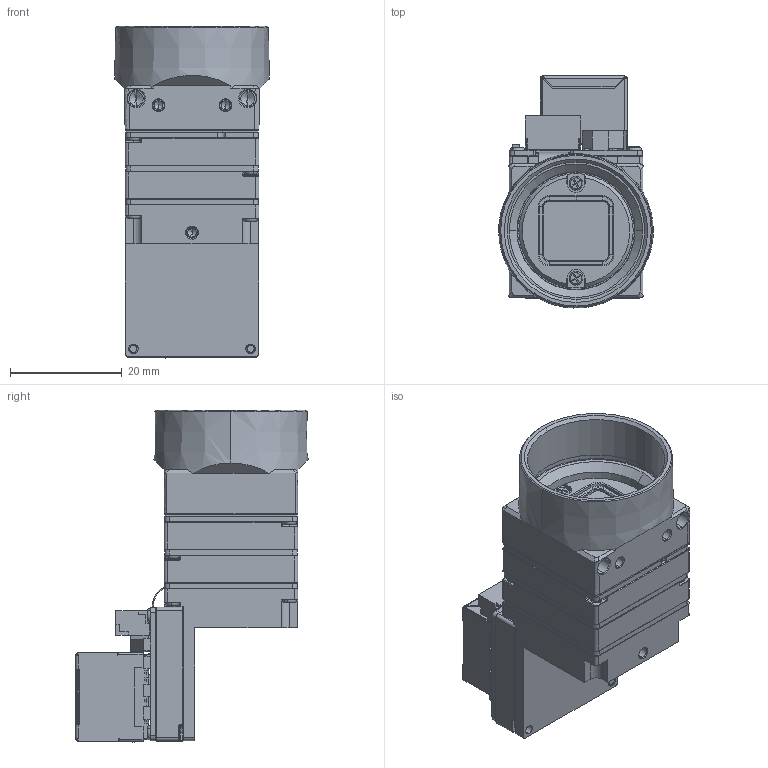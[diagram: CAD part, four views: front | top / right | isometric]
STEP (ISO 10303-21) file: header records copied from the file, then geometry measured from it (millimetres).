
FILE_DESCRIPTION (( 'STEP AP203' ), '1' );
FILE_NAME ('408-379-A_RJ45_90.STEP', '2023-03-02T09:01:28', ( '' ), ( '' ), 'SwSTEP 2.0', 'SolidWorks 2021', '' );
FILE_SCHEMA (( 'CONFIG_CONTROL_DESIGN' ));
Products named in the file (1): 408-379-A_RJ45_90
Bounding box: 27.72 x 41.65 x 59.5 mm (x, y, z)
Volume: 13111 mm3; surface area: 23919 mm2
Topology: 61 solids, 61 shells, 5237 faces, 13634 edges, 8433 vertices
Faces by surface type: plane 3005, cylinder 1327, cone 381, bspline 291, torus 165, sphere 68
Entity records: 163359 total; most frequent: CARTESIAN_POINT 36425, ORIENTED_EDGE 26876, DIRECTION 25726, EDGE_CURVE 13438, VECTOR 9520, LINE 9520, VERTEX_POINT 8425, AXIS2_PLACEMENT_3D 8103
